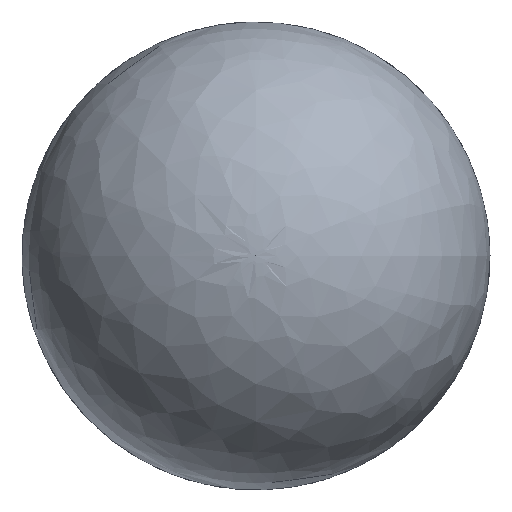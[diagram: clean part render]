
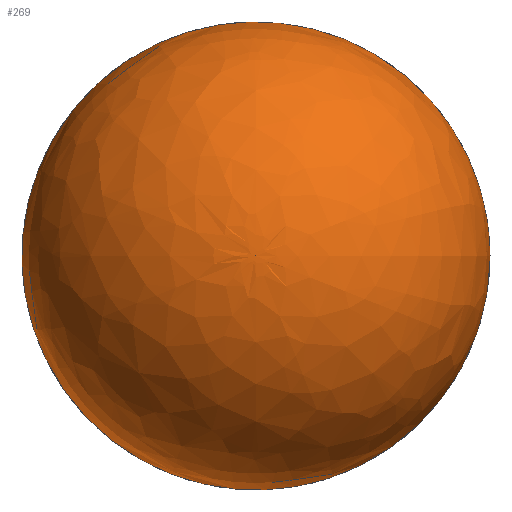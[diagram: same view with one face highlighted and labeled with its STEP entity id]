
A CAD part, front view. The second image highlights one B-rep face of the part: STEP entity #269.
In plain terms, the highlighted free-form (B-spline) face has degree [2, 2] with [9, 5] control points.
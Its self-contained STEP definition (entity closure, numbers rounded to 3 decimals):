
#213=(
BOUNDED_SURFACE()
B_SPLINE_SURFACE(2,2,((#2283,#2284,#2285,#2286,#2287),(#2288,#2289,#2290,
#2291,#2292),(#2293,#2294,#2295,#2296,#2297),(#2298,#2299,#2300,#2301,#2302),
(#2303,#2304,#2305,#2306,#2307),(#2308,#2309,#2310,#2311,#2312),(#2313,
#2314,#2315,#2316,#2317),(#2318,#2319,#2320,#2321,#2322),(#2323,#2324,#2325,
#2326,#2327)),.UNSPECIFIED.,.T.,.F.,.F.)
B_SPLINE_SURFACE_WITH_KNOTS((3,2,2,2,3),(3,2,3),(0.,314.159,628.319,
942.478,1256.637),(-314.159,0.,314.159),
 .UNSPECIFIED.)
GEOMETRIC_REPRESENTATION_ITEM()
RATIONAL_B_SPLINE_SURFACE(((1.,0.707,1.,0.707,1.),
(0.707,0.5,0.707,0.5,0.707),(1.,0.707,
1.,0.707,1.),(0.707,0.5,0.707,0.5,0.707),
(1.,0.707,1.,0.707,1.),(0.707,0.5,0.707,
0.5,0.707),(1.,0.707,1.,0.707,1.),(0.707,
0.5,0.707,0.5,0.707),(1.,0.707,1.,0.707,
1.)))
REPRESENTATION_ITEM('')
SURFACE()
);
#269=ADVANCED_FACE('',(#398),#213,.T.);
#398=FACE_OUTER_BOUND('',#528,.T.);
#528=EDGE_LOOP('',(#712,#713,#714));
#712=ORIENTED_EDGE('',*,*,#1209,.T.);
#713=ORIENTED_EDGE('',*,*,#1209,.F.);
#714=ORIENTED_EDGE('',*,*,#1208,.F.);
#1208=EDGE_CURVE('',#1563,#1563,#1463,.T.);
#1209=EDGE_CURVE('',#1563,#1567,#1464,.T.);
#1463=(
BOUNDED_CURVE()
B_SPLINE_CURVE(2,(#2349,#2350,#2351,#2352,#2353,#2354,#2355,#2356,#2357),
 .UNSPECIFIED.,.T.,.F.)
B_SPLINE_CURVE_WITH_KNOTS((3,2,2,2,3),(-1256.637,-942.478,
-628.319,-314.159,0.),.UNSPECIFIED.)
CURVE()
GEOMETRIC_REPRESENTATION_ITEM()
RATIONAL_B_SPLINE_CURVE((1.,0.707,1.,0.707,1.,0.707,
1.,0.707,1.))
REPRESENTATION_ITEM('')
);
#1464=(
BOUNDED_CURVE()
B_SPLINE_CURVE(2,(#2358,#2359,#2360),.UNSPECIFIED.,.F.,.F.)
B_SPLINE_CURVE_WITH_KNOTS((3,3),(0.,314.159),.UNSPECIFIED.)
CURVE()
GEOMETRIC_REPRESENTATION_ITEM()
RATIONAL_B_SPLINE_CURVE((1.,0.707,1.))
REPRESENTATION_ITEM('')
);
#1563=VERTEX_POINT('',#2328);
#1567=VERTEX_POINT('',#2332);
#2283=CARTESIAN_POINT('',(780.556,195.399,2.));
#2284=CARTESIAN_POINT('',(980.556,195.399,2.));
#2285=CARTESIAN_POINT('',(980.556,-4.601,2.));
#2286=CARTESIAN_POINT('',(980.556,-204.601,2.));
#2287=CARTESIAN_POINT('',(780.556,-204.601,2.));
#2288=CARTESIAN_POINT('',(780.556,195.399,2.));
#2289=CARTESIAN_POINT('',(980.556,195.399,202.));
#2290=CARTESIAN_POINT('',(980.556,-4.601,202.));
#2291=CARTESIAN_POINT('',(980.556,-204.601,202.));
#2292=CARTESIAN_POINT('',(780.556,-204.601,2.));
#2293=CARTESIAN_POINT('',(780.556,195.399,2.));
#2294=CARTESIAN_POINT('',(780.556,195.399,202.));
#2295=CARTESIAN_POINT('',(780.556,-4.601,202.));
#2296=CARTESIAN_POINT('',(780.556,-204.601,202.));
#2297=CARTESIAN_POINT('',(780.556,-204.601,2.));
#2298=CARTESIAN_POINT('',(780.556,195.399,2.));
#2299=CARTESIAN_POINT('',(580.556,195.399,202.));
#2300=CARTESIAN_POINT('',(580.556,-4.601,202.));
#2301=CARTESIAN_POINT('',(580.556,-204.601,202.));
#2302=CARTESIAN_POINT('',(780.556,-204.601,2.));
#2303=CARTESIAN_POINT('',(780.556,195.399,2.));
#2304=CARTESIAN_POINT('',(580.556,195.399,2.));
#2305=CARTESIAN_POINT('',(580.556,-4.601,2.));
#2306=CARTESIAN_POINT('',(580.556,-204.601,2.));
#2307=CARTESIAN_POINT('',(780.556,-204.601,2.));
#2308=CARTESIAN_POINT('',(780.556,195.399,2.));
#2309=CARTESIAN_POINT('',(580.556,195.399,-198.));
#2310=CARTESIAN_POINT('',(580.556,-4.601,-198.));
#2311=CARTESIAN_POINT('',(580.556,-204.601,-198.));
#2312=CARTESIAN_POINT('',(780.556,-204.601,2.));
#2313=CARTESIAN_POINT('',(780.556,195.399,2.));
#2314=CARTESIAN_POINT('',(780.556,195.399,-198.));
#2315=CARTESIAN_POINT('',(780.556,-4.601,-198.));
#2316=CARTESIAN_POINT('',(780.556,-204.601,-198.));
#2317=CARTESIAN_POINT('',(780.556,-204.601,2.));
#2318=CARTESIAN_POINT('',(780.556,195.399,2.));
#2319=CARTESIAN_POINT('',(980.556,195.399,-198.));
#2320=CARTESIAN_POINT('',(980.556,-4.601,-198.));
#2321=CARTESIAN_POINT('',(980.556,-204.601,-198.));
#2322=CARTESIAN_POINT('',(780.556,-204.601,2.));
#2323=CARTESIAN_POINT('',(780.556,195.399,2.));
#2324=CARTESIAN_POINT('',(980.556,195.399,2.));
#2325=CARTESIAN_POINT('',(980.556,-4.601,2.));
#2326=CARTESIAN_POINT('',(980.556,-204.601,2.));
#2327=CARTESIAN_POINT('',(780.556,-204.601,2.));
#2328=CARTESIAN_POINT('',(980.556,-4.601,2.));
#2332=CARTESIAN_POINT('',(780.556,-204.601,2.));
#2349=CARTESIAN_POINT('',(980.556,-4.601,2.));
#2350=CARTESIAN_POINT('',(980.556,-4.601,-198.));
#2351=CARTESIAN_POINT('',(780.556,-4.601,-198.));
#2352=CARTESIAN_POINT('',(580.556,-4.601,-198.));
#2353=CARTESIAN_POINT('',(580.556,-4.601,2.));
#2354=CARTESIAN_POINT('',(580.556,-4.601,202.));
#2355=CARTESIAN_POINT('',(780.556,-4.601,202.));
#2356=CARTESIAN_POINT('',(980.556,-4.601,202.));
#2357=CARTESIAN_POINT('',(980.556,-4.601,2.));
#2358=CARTESIAN_POINT('',(980.556,-4.601,2.));
#2359=CARTESIAN_POINT('',(980.556,-204.601,2.));
#2360=CARTESIAN_POINT('',(780.556,-204.601,2.));
